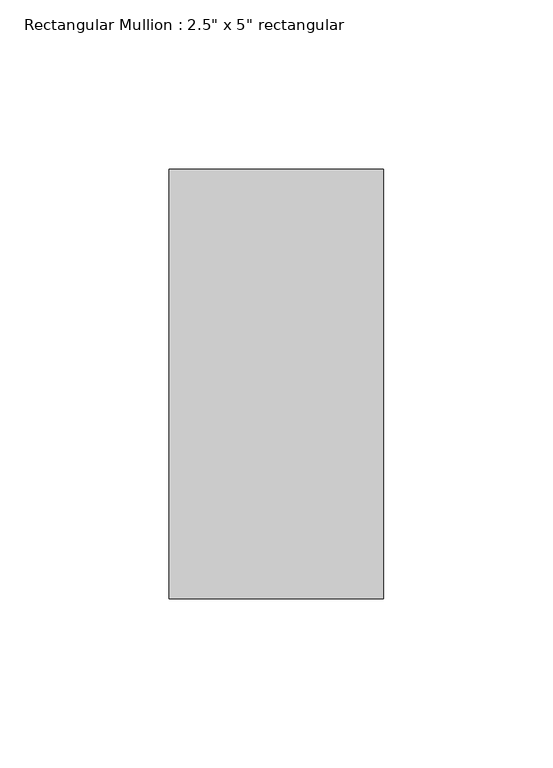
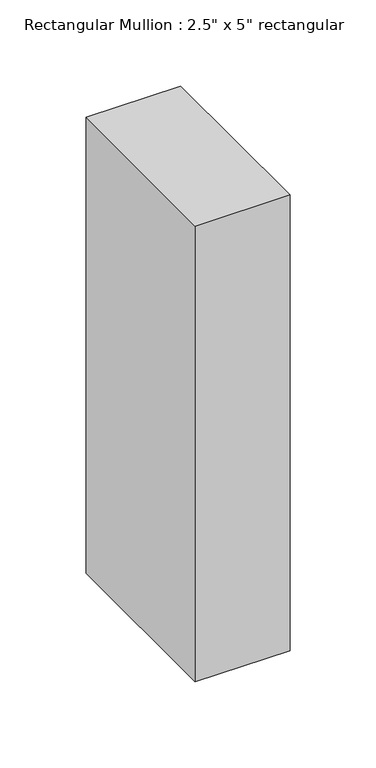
"""IFC4 building model written with IfcOpenShell, lengths in millimetres: member geometry."""

from ifc_helpers import new_model, si_unit, frame, origin, place, context, project, spatial, polyline, outline, extrude, source, transform, mapped, element, save


def member_43068072(model_context):
    return source(origin(), model_context, "Body", "SweptSolid", [
        extrude(outline(polyline([(31.75, 63.5), (31.75, -63.5), (-31.75, -63.5), (-31.75, 63.5), (31.75, 63.5)])), frame((0.0, 0.0, -323.2828153), z_axis=(0.0, 0.0, 1.0), x_axis=(1.0, 0.0, 0.0)), (0.0, 0.0, 1.0), 323.2828153),
    ])


if __name__ == "__main__":
    model = new_model("IFC4")
    model_context = context("Model", 3, world=origin())
    ifc_project = project(units=[si_unit("LENGTHUNIT", "METRE", prefix="MILLI")], contexts=[model_context])
    site = spatial("IfcSite", under=ifc_project)
    building = spatial("IfcBuilding", under=site)
    placement = place(None, origin())
    member_shape = member_43068072(model_context)
    element("IfcMember", 1, ObjectType="Rectangular Mullion : 2.5\" x 5\" rectangular", at=placement, inside=building, context=model_context, shape_type="MappedRepresentation", body=[
        mapped(member_shape, transform((0.0, 0.0, 0.0), x_axis=(1.0, 0.0, 0.0), y_axis=(0.0, 1.0, 0.0), z_axis=(0.0, 0.0, 1.0))),
    ])
    save(model, "model.ifc")
